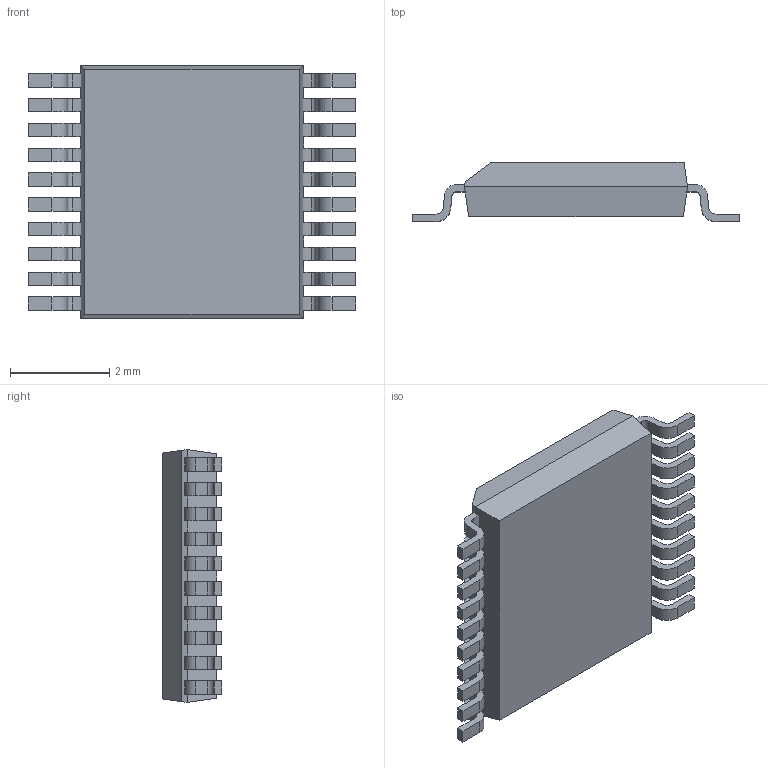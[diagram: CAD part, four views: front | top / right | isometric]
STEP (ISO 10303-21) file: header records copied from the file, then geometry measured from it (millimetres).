
FILE_DESCRIPTION (( 'STEP AP214' ), '1' );
FILE_NAME ('TSSOP50P640X120-20_MO-153.BA.STEP', '2014-10-29T08:29:48', ( 'Tester2' ), ( '' ), 'SwSTEP 2.0', 'SolidWorks 2012', '' );
FILE_SCHEMA (( 'AUTOMOTIVE_DESIGN' ));
Length unit declared in the file: millimetre
Products named in the file (1): TSSOP50P640X120-20_MO-153.BA
Bounding box: 6.6 x 1.2 x 5.1 mm (x, y, z)
Volume: 25.1 mm3; surface area: 87.5 mm2
Topology: 1 solids, 1 shells, 274 faces, 809 edges, 538 vertices
Faces by surface type: plane 192, cylinder 82
Entity records: 12032 total; most frequent: CARTESIAN_POINT 1622, ORIENTED_EDGE 1618, DIRECTION 1523, EDGE_CURVE 809, LINE 645, VECTOR 645, VERTEX_POINT 538, AXIS2_PLACEMENT_3D 439
